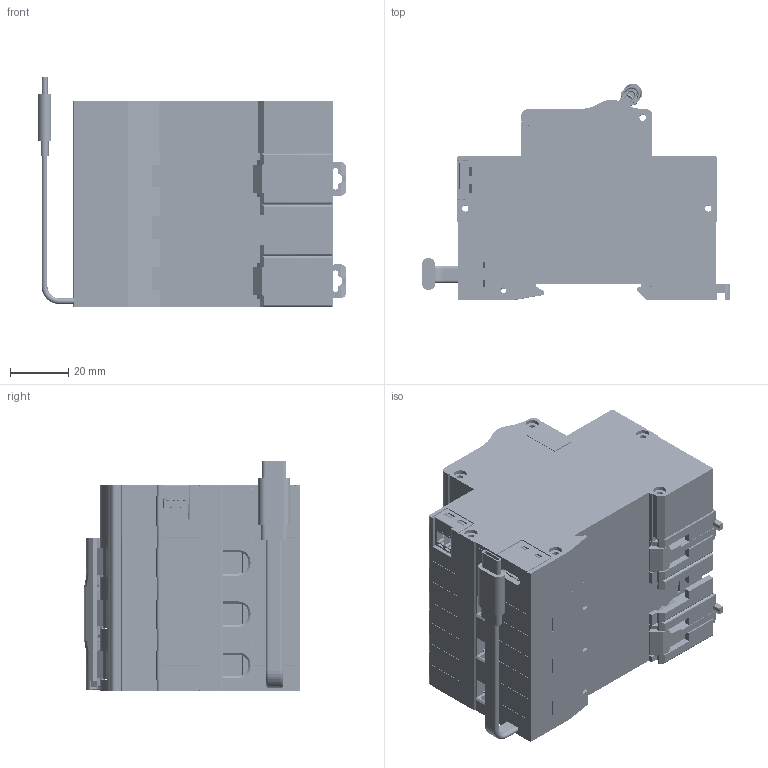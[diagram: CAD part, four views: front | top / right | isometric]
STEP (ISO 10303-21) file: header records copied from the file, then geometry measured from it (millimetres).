
FILE_DESCRIPTION (( 'STEP AP214' ), '1' );
FILE_NAME ('NDB5E-80 3P.step', '2023-12-13T05:33:29', ( '' ), ( '' ), 'SwSTEP 2.0', 'SolidWorks 2018', '' );
FILE_SCHEMA (( 'AUTOMOTIVE_DESIGN' ));
Length unit declared in the file: millimetre
Products named in the file (1): NDB5E-80 3P
Bounding box: 106.04 x 74.42 x 79 mm (x, y, z)
Surface area: 285682.8 mm2 (no closed solid volume)
Topology: 0 solids, 77 shells, 17573 faces, 49357 edges, 32566 vertices
Faces by surface type: plane 11406, cylinder 3860, bspline 1054, cone 1012, torus 241
Entity records: 952695 total; most frequent: CARTESIAN_POINT 312280, ORIENTED_EDGE 98626, DIRECTION 84922, EDGE_CURVE 49354, VECTOR 34702, LINE 34702, VERTEX_POINT 32566, AXIS2_PLACEMENT_3D 25110
